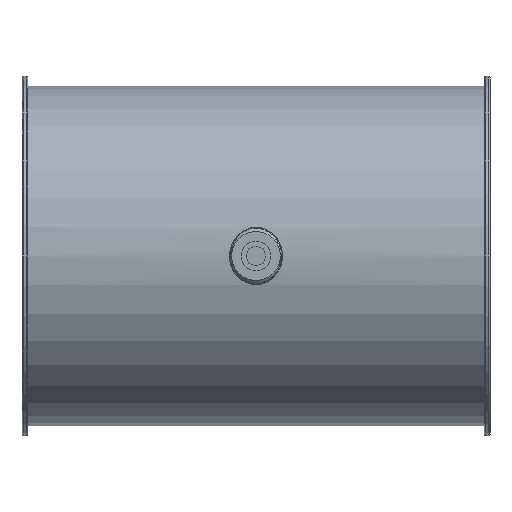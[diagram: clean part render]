
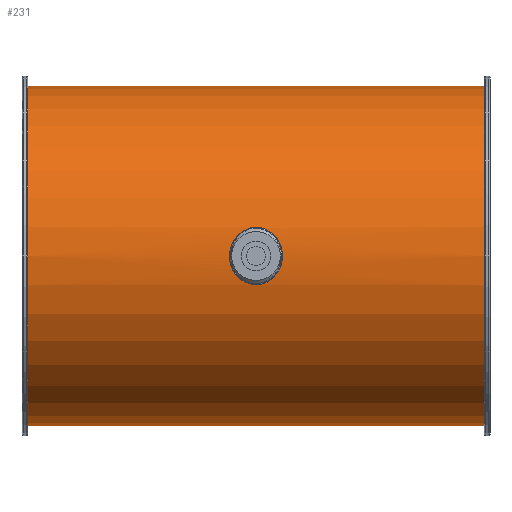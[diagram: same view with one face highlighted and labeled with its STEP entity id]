
A CAD part, front view. The second image highlights one B-rep face of the part: STEP entity #231.
In plain terms, the highlighted cylindrical face has radius 90.8 mm (diameter 181.6 mm), a full revolution.
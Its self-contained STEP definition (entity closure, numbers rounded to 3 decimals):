
#175=B_SPLINE_CURVE_WITH_KNOTS('',3,(#1549,#1550,#1551,#1552,#1553,#1554,
#1555,#1556,#1557,#1558,#1559,#1560,#1561,#1562,#1563,#1564,#1565,#1566,
#1567,#1568,#1569,#1570),.UNSPECIFIED.,.T.,.F.,(2,2,2,2,2,2,2,2,2,2,2,2,
2),(-0.063,0.,0.125,0.25,0.375,0.437,
0.5,0.625,0.75,0.875,
0.938,1.,1.125),.UNSPECIFIED.);
#176=B_SPLINE_CURVE_WITH_KNOTS('',3,(#1572,#1573,#1574,#1575,#1576,#1577,
#1578,#1579,#1580,#1581,#1582,#1583,#1584,#1585,#1586,#1587,#1588,#1589,
#1590,#1591,#1592,#1593),.UNSPECIFIED.,.T.,.F.,(2,2,2,2,2,2,2,2,2,2,2,2,
2),(-0.125,0.,0.062,0.125,0.25,0.375,
0.5,0.562,0.625,0.75,
0.875,1.,1.063),.UNSPECIFIED.);
#201=CYLINDRICAL_SURFACE('',#1092,90.8);
#231=ADVANCED_FACE('',(#341,#342,#343,#344),#201,.T.);
#341=FACE_BOUND('',#475,.T.);
#342=FACE_BOUND('',#476,.T.);
#343=FACE_BOUND('',#477,.T.);
#344=FACE_BOUND('',#478,.T.);
#475=EDGE_LOOP('',(#623));
#476=EDGE_LOOP('',(#624));
#477=EDGE_LOOP('',(#625));
#478=EDGE_LOOP('',(#626));
#623=ORIENTED_EDGE('',*,*,#913,.T.);
#624=ORIENTED_EDGE('',*,*,#914,.T.);
#625=ORIENTED_EDGE('',*,*,#915,.T.);
#626=ORIENTED_EDGE('',*,*,#916,.F.);
#823=VERTEX_POINT('',#1548);
#824=VERTEX_POINT('',#1571);
#825=VERTEX_POINT('',#1594);
#826=VERTEX_POINT('',#1596);
#913=EDGE_CURVE('',#823,#823,#1015,.T.);
#914=EDGE_CURVE('',#824,#824,#175,.T.);
#915=EDGE_CURVE('',#825,#825,#176,.T.);
#916=EDGE_CURVE('',#826,#826,#1016,.T.);
#1015=CIRCLE('',#1090,90.8);
#1016=CIRCLE('',#1091,90.8);
#1090=AXIS2_PLACEMENT_3D('',#1547,#1242,#1243);
#1091=AXIS2_PLACEMENT_3D('',#1595,#1244,#1245);
#1092=AXIS2_PLACEMENT_3D('',#1597,#1246,#1247);
#1242=DIRECTION('',(1.,0.,0.));
#1243=DIRECTION('',(0.,0.,1.));
#1244=DIRECTION('',(1.,0.,0.));
#1245=DIRECTION('',(0.,0.,1.));
#1246=DIRECTION('',(1.,0.,0.));
#1247=DIRECTION('',(0.,0.,-1.));
#1547=CARTESIAN_POINT('',(-122.,-48.3,125.));
#1548=CARTESIAN_POINT('',(-122.,-48.3,215.8));
#1549=CARTESIAN_POINT('',(-2.298,-137.806,109.715));
#1550=CARTESIAN_POINT('',(-7.848,-138.111,111.573));
#1551=CARTESIAN_POINT('',(-10.853,-138.549,114.427));
#1552=CARTESIAN_POINT('',(-14.215,-139.092,121.339));
#1553=CARTESIAN_POINT('',(-14.602,-139.175,125.457));
#1554=CARTESIAN_POINT('',(-12.646,-138.833,132.889));
#1555=CARTESIAN_POINT('',(-10.282,-138.42,136.281));
#1556=CARTESIAN_POINT('',(-5.389,-137.969,139.326));
#1557=CARTESIAN_POINT('',(-3.54,-137.852,140.003));
#1558=CARTESIAN_POINT('',(0.316,-137.77,140.486));
#1559=CARTESIAN_POINT('',(2.284,-137.806,140.286));
#1560=CARTESIAN_POINT('',(7.813,-138.108,138.445));
#1561=CARTESIAN_POINT('',(10.832,-138.546,135.61));
#1562=CARTESIAN_POINT('',(14.228,-139.094,128.638));
#1563=CARTESIAN_POINT('',(14.605,-139.176,124.548));
#1564=CARTESIAN_POINT('',(12.639,-138.832,117.092));
#1565=CARTESIAN_POINT('',(10.262,-138.417,113.7));
#1566=CARTESIAN_POINT('',(5.375,-137.968,110.669));
#1567=CARTESIAN_POINT('',(3.504,-137.851,109.99));
#1568=CARTESIAN_POINT('',(-0.316,-137.77,109.517));
#1569=CARTESIAN_POINT('',(-2.298,-137.806,109.715));
#1570=CARTESIAN_POINT('',(-7.848,-138.111,111.573));
#1571=CARTESIAN_POINT('',(-4.148,-137.908,110.334));
#1572=CARTESIAN_POINT('',(-7.848,41.511,111.573));
#1573=CARTESIAN_POINT('',(-2.298,41.206,109.715));
#1574=CARTESIAN_POINT('',(-0.332,41.17,109.516));
#1575=CARTESIAN_POINT('',(3.497,41.251,109.988));
#1576=CARTESIAN_POINT('',(5.363,41.367,110.662));
#1577=CARTESIAN_POINT('',(10.275,41.818,113.707));
#1578=CARTESIAN_POINT('',(12.645,42.233,117.093));
#1579=CARTESIAN_POINT('',(14.61,42.577,124.589));
#1580=CARTESIAN_POINT('',(14.213,42.492,128.674));
#1581=CARTESIAN_POINT('',(10.84,41.947,135.59));
#1582=CARTESIAN_POINT('',(7.832,41.51,138.429));
#1583=CARTESIAN_POINT('',(2.322,41.207,140.279));
#1584=CARTESIAN_POINT('',(0.37,41.17,140.486));
#1585=CARTESIAN_POINT('',(-3.508,41.251,140.013));
#1586=CARTESIAN_POINT('',(-5.361,41.367,139.339));
#1587=CARTESIAN_POINT('',(-10.273,41.818,136.295));
#1588=CARTESIAN_POINT('',(-12.642,42.232,132.907));
#1589=CARTESIAN_POINT('',(-14.607,42.576,125.435));
#1590=CARTESIAN_POINT('',(-14.226,42.494,121.358));
#1591=CARTESIAN_POINT('',(-10.835,41.946,114.395));
#1592=CARTESIAN_POINT('',(-7.848,41.511,111.573));
#1593=CARTESIAN_POINT('',(-2.298,41.206,109.715));
#1594=CARTESIAN_POINT('',(-4.148,41.308,110.334));
#1595=CARTESIAN_POINT('',(122.,-48.3,125.));
#1596=CARTESIAN_POINT('',(122.,-48.3,215.8));
#1597=CARTESIAN_POINT('',(-125.,-48.3,125.));
